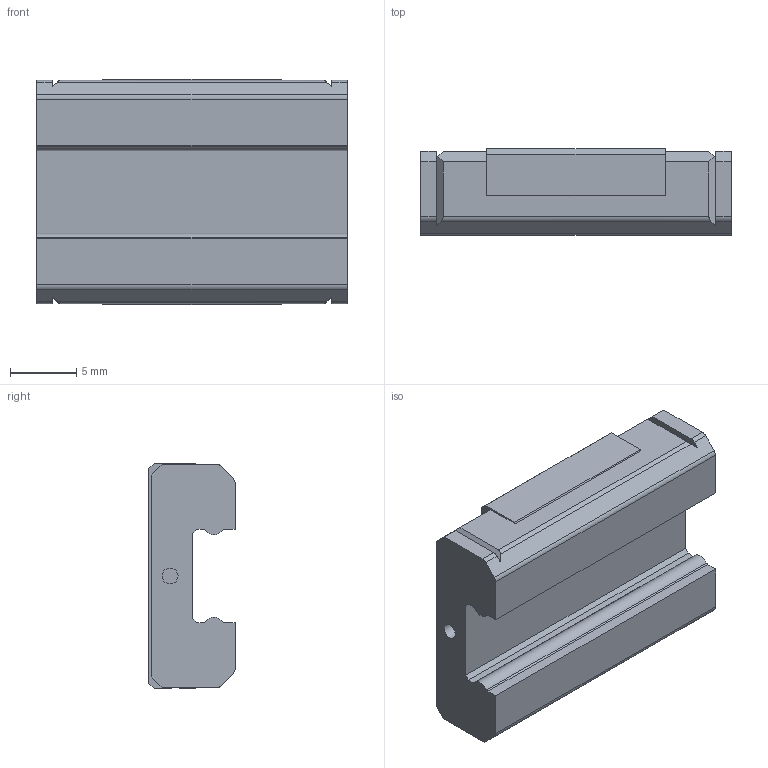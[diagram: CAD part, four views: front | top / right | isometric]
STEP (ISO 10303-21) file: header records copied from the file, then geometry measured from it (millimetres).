
FILE_DESCRIPTION(/* description */ ('STEP AP214'),/* implementation_level */ '2;1');
FILE_NAME(/* name */ 'SRS7MUU(GK) BLOCK(1)',/* time_stamp */ '2023-06-01T09:50:13+02:00',/* author */ ('License CC BY-ND 4.0'),/* organization */ ('CADENAS'),/* preprocessor_version */ 'ST-DEVELOPER v19.3',/* originating_system */ 'PARTsolutions',/* authorisation */ ' ');
FILE_SCHEMA (('AUTOMOTIVE_DESIGN {1 0 10303 214 3 1 1}'));
Length unit declared in the file: millimetre
Products named in the file (2): SRS7MUU(GK) BLOCK(1); SRS7MUU1S
Assembly tree (1 placements, depth 2):
  SRS7MUU(GK) BLOCK(1)
    SRS7MUU1S
Bounding box: 23.4 x 6.5 x 17 mm (x, y, z)
Volume: 1945.6 mm3; surface area: 1486.8 mm2
Topology: 1 solids, 1 shells, 84 faces, 232 edges, 152 vertices
Faces by surface type: plane 55, cylinder 21, cone 8
Full cylindrical faces by diameter (mm): 1.2 x2, 1.567 x4
Entity records: 2585 total; most frequent: CARTESIAN_POINT 444, DIRECTION 432, ORIENTED_EDGE 420, EDGE_CURVE 210, LINE 160, VECTOR 160, VERTEX_POINT 148, AXIS2_PLACEMENT_3D 136
